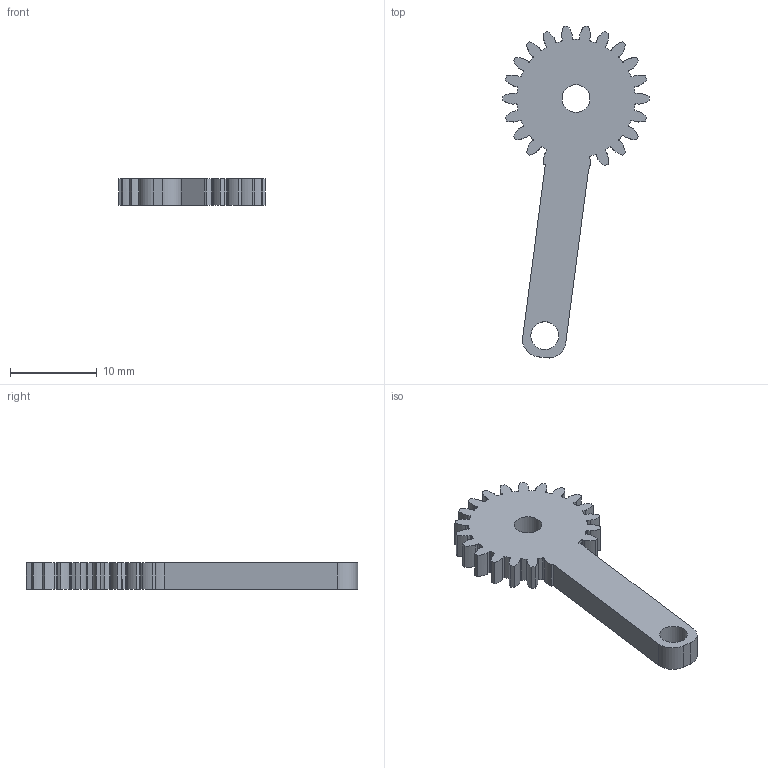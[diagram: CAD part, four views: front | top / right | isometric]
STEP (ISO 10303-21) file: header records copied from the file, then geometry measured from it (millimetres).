
FILE_DESCRIPTION(/* description */ (''),/* implementation_level */ '2;1');
FILE_NAME(/* name */ 'Claw Other Gear_v12.tmp.step',/* time_stamp */ '2026-11-01T13:09:45+02:00',/* author */ (''),/* organization */ (''),/* preprocessor_version */ 'ST-DEVELOPER v20.2',/* originating_system */ 'Autodesk Translation Framework v15.15.0.0',/* authorisation */ '');
FILE_SCHEMA (('AUTOMOTIVE_DESIGN { 1 0 10303 214 3 1 1 }'));
Length unit declared in the file: millimetre
Products named in the file (2): Claw Other Gear; Spur Gear (22 teeth) (1)
Assembly tree (1 placements, depth 2):
  Claw Other Gear
    Spur Gear (22 teeth) (1)
Bounding box: 16.8 x 38.17 x 3 mm (x, y, z)
Volume: 829.4 mm3; surface area: 1027.1 mm2
Topology: 1 solids, 1 shells, 170 faces, 504 edges, 336 vertices
Faces by surface type: cylinder 85, plane 45, bspline 40
Full cylindrical faces by diameter (mm): 3.2 x2
Entity records: 17279 total; most frequent: CARTESIAN_POINT 12893, ORIENTED_EDGE 1008, DIRECTION 860, EDGE_CURVE 504, VERTEX_POINT 336, AXIS2_PLACEMENT_3D 303, LINE 254, VECTOR 254
